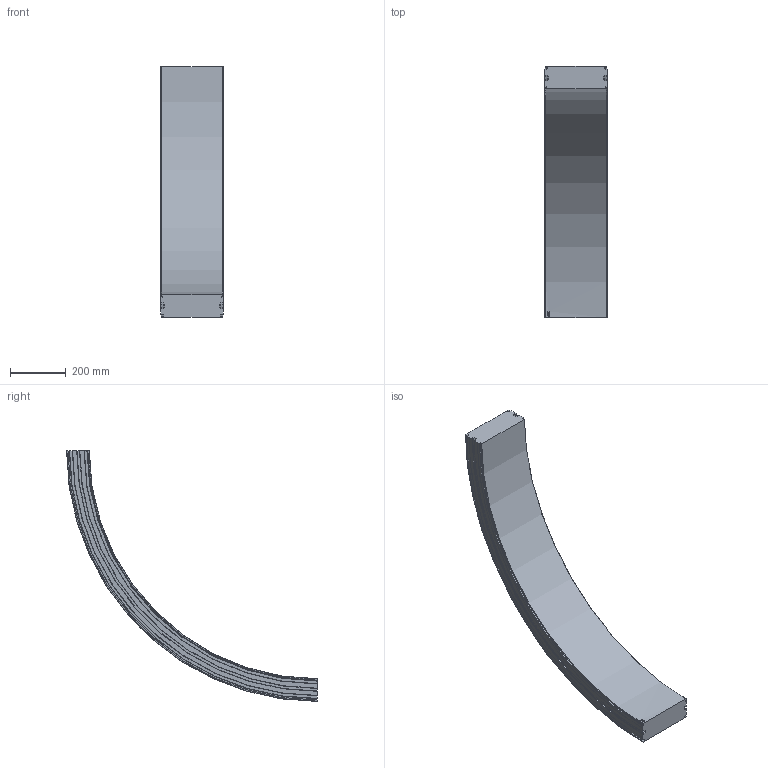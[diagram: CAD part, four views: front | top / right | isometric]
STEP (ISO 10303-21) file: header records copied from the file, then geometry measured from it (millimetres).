
FILE_DESCRIPTION(/* description */ ('VERTIKALKURVA S220 R860'),/* implementation_level */ '2;1');
FILE_NAME(/* name */ '\\carryline.intra\privat\users\mathias\Desktop\Tillfälliga filer\220-5695+220-2000-UPP-01.stp',/* time_stamp */ '2018-11-29T14:59:28+01:00',/* author */ ('MD'),/* organization */ ('CARRYLINE'),/* preprocessor_version */ 'ST-DEVELOPER v17',/* originating_system */ 'Autodesk Inventor 2018',/* authorisation */ '');
FILE_SCHEMA (('AUTOMOTIVE_DESIGN { 1 0 10303 214 3 1 1 }'));
Length unit declared in the file: millimetre
Products named in the file (1): 220-5695+220-2000-UPP-01
Bounding box: 224 x 902 x 902 mm (x, y, z)
Volume: 23935765.1 mm3; surface area: 1055002.3 mm2
Topology: 1 solids, 1 shells, 113 faces, 318 edges, 212 vertices
Faces by surface type: plane 48, cylinder 31, bspline 14, cone 14, torus 6
Entity records: 8349 total; most frequent: CARTESIAN_POINT 5381, ORIENTED_EDGE 636, DIRECTION 576, EDGE_CURVE 318, VERTEX_POINT 212, AXIS2_PLACEMENT_3D 199, LINE 178, VECTOR 178
